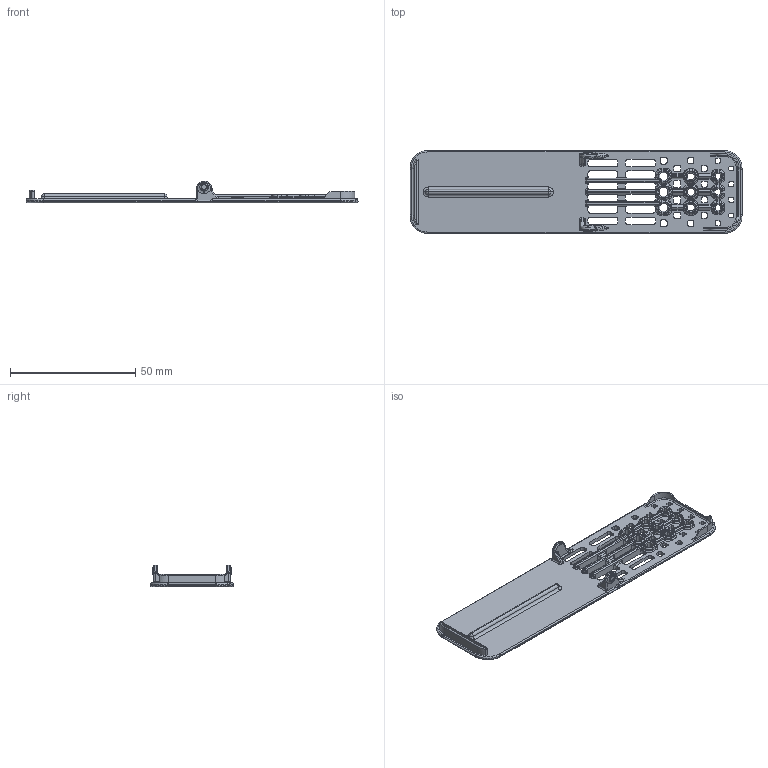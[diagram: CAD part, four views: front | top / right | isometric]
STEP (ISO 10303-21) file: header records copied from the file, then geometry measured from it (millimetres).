
FILE_DESCRIPTION (( 'STEP AP214' ), '1' );
FILE_NAME ('SENSOR16_COVER2.STEP', '2026-02-17T20:55:41', ( '' ), ( '' ), 'SwSTEP 2.0', 'SolidWorks 2021', '' );
FILE_SCHEMA (( 'AUTOMOTIVE_DESIGN' ));
Length unit declared in the file: millimetre
Products named in the file (1): SENSOR16_COVER2
Bounding box: 132.5 x 33 x 8.5 mm (x, y, z)
Volume: 6570.5 mm3; surface area: 10748.6 mm2
Topology: 13 solids, 13 shells, 1825 faces, 4950 edges, 3113 vertices
Faces by surface type: bspline 762, cylinder 469, plane 357, torus 192, sphere 45
Entity records: 62346 total; most frequent: CARTESIAN_POINT 22107, ORIENTED_EDGE 9804, DIRECTION 6584, EDGE_CURVE 4902, VERTEX_POINT 3113, AXIS2_PLACEMENT_3D 2226, LINE 2132, VECTOR 2132
